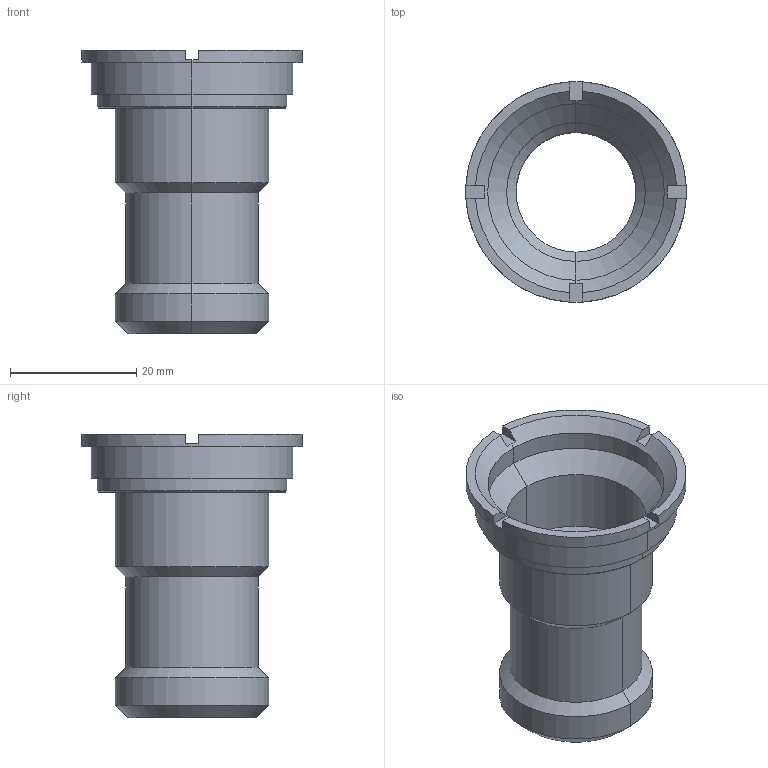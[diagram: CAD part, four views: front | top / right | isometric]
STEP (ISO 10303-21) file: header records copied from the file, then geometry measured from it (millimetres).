
FILE_DESCRIPTION(/* description */ ('VariCAD 2010-3.03 AP-214'),/* implementation_level */ '2;1');
FILE_NAME(/* name */ '0353-19-86',/* time_stamp */ '2011-03-02T15:26:41-07:00',/* author */ (''),/* organization */ (''),/* preprocessor_version */ 'ST-DEVELOPER v12',/* originating_system */ 'VariCAD 2010-3.03; kernel version (20100102)',/* authorisation */ '');
FILE_SCHEMA (('AUTOMOTIVE_DESIGN'));
Length unit declared in the file: millimetre
Products named in the file (1): Part
Bounding box: 35 x 35 x 45 mm (x, y, z)
Volume: 5775.1 mm3; surface area: 8653.4 mm2
Topology: 2 solids, 2 shells, 61 faces, 140 edges, 86 vertices
Faces by surface type: plane 23, cylinder 22, cone 16
Entity records: 2268 total; most frequent: CARTESIAN_POINT 378, DIRECTION 326, ORIENTED_EDGE 280, EDGE_CURVE 140, AXIS2_PLACEMENT_3D 132, VERTEX_POINT 86, EDGE_LOOP 68, CIRCLE 68
